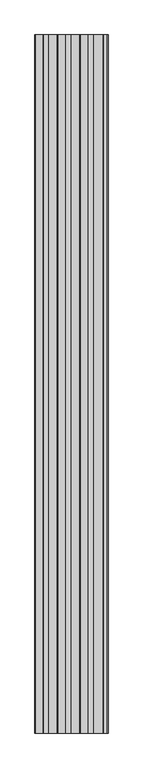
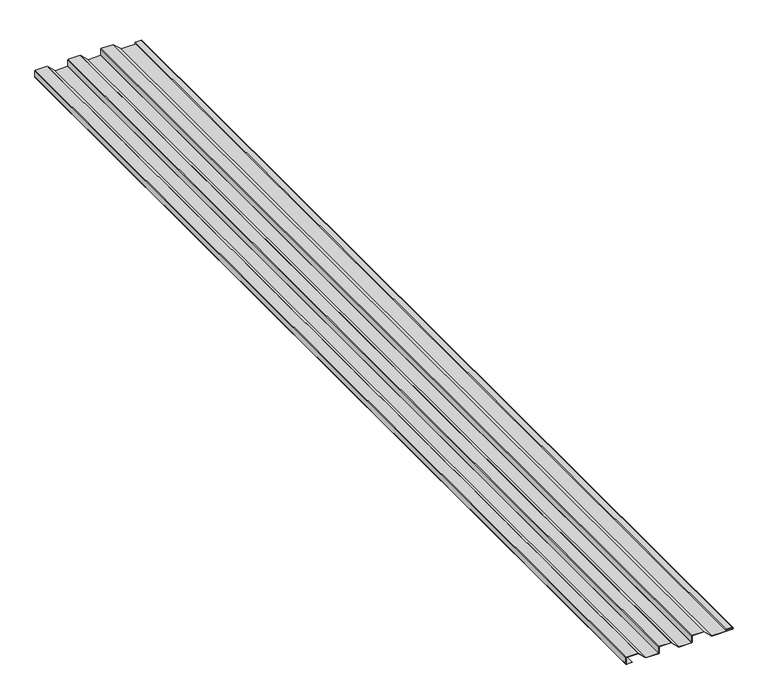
"""IFC4 building model written with IfcOpenShell, lengths in millimetres: proxy geometry, Perception-Collection_Panel_PC-10_AEP_Span : Perception Collection PC10-12c - 20ga."""

from ifc_helpers import new_model, si_unit, point, frame, frame_2d, origin, place, context, project, spatial, polyline, circle_curve, trimmed, segment, composite_curve, outline, extrude, source, transform, mapped, element, save


def generic_models_2ece9b0f(model_context):
    return source(origin(), model_context, "Body", "SweptSolid", [
        extrude(outline(composite_curve([segment(trimmed(circle_curve(frame_2d((20.9575359, -129.4492612)), 1.444969), [point((22.0143193, -128.4637947))], [point((22.4025049, -129.4492612))], False, "CARTESIAN"), True, "CONTINUOUS"), segment(polyline([(22.4025049, -129.4492612), (22.4025049, -164.2965588)]), True, "CONTINUOUS"), segment(trimmed(circle_curve(frame_2d((20.9575359, -164.2965588)), 1.444969), [point((22.4025049, -164.2965588))], [point((20.9575359, -165.7415279))], False, "CARTESIAN"), True, "CONTINUOUS"), segment(polyline([(20.9575359, -165.7415279), (1.6224739, -165.7415279)]), True, "CONTINUOUS"), segment(trimmed(circle_curve(frame_2d((1.6224739, -164.2965588)), 1.444969), [point((1.6224739, -165.7415279))], [point((0.1775049, -164.2965588))], False, "CARTESIAN"), True, "CONTINUOUS"), segment(polyline([(0.1775049, -164.2965588), (0.1775049, -147.3108003), (1.0766649, -147.3108003), (1.0766649, -164.2903676)]), True, "CONTINUOUS"), segment(trimmed(circle_curve(frame_2d((1.6286652, -164.2903676)), 0.5520003), [point((1.0766649, -164.2903676))], [point((1.6286652, -164.8423679))], True, "CARTESIAN"), True, "CONTINUOUS"), segment(polyline([(1.6286652, -164.8423679), (20.9513446, -164.8423679)]), True, "CONTINUOUS"), segment(trimmed(circle_curve(frame_2d((20.9513446, -164.2903676)), 0.5520003), [point((20.9513446, -164.8423679))], [point((21.5033449, -164.2903676))], True, "CARTESIAN"), True, "CONTINUOUS"), segment(polyline([(21.5033449, -164.2903676), (21.5033449, -129.2342613), (0.0004147, -106.1751918), (0.0004147, -68.1599502)]), True, "CONTINUOUS"), segment(trimmed(circle_curve(frame_2d((1.615868, -68.1599502)), 1.6154533), [point((0.0004147, -68.1599502))], [point((1.615868, -66.5444969))], False, "CARTESIAN"), True, "CONTINUOUS"), segment(polyline([(1.615868, -66.5444969), (20.9509299, -66.5444969)]), True, "CONTINUOUS"), segment(trimmed(circle_curve(frame_2d((20.9509299, -65.9924966)), 0.5520003), [point((20.9509299, -66.5444969))], [point((21.5029302, -65.9924966))], True, "CARTESIAN"), True, "CONTINUOUS"), segment(polyline([(21.5029302, -65.9924966), (21.5029302, -30.9363903), (0.0, -7.8773208), (0.0, 30.1379208)]), True, "CONTINUOUS"), segment(trimmed(circle_curve(frame_2d((1.6154533, 30.1379208)), 1.6154533), [point((0.0, 30.1379208))], [point((1.6154533, 31.7533741))], False, "CARTESIAN"), True, "CONTINUOUS"), segment(polyline([(1.6154533, 31.7533741), (20.9505152, 31.7533741)]), True, "CONTINUOUS"), segment(trimmed(circle_curve(frame_2d((20.9505152, 32.3053744)), 0.5520003), [point((20.9505152, 31.7533741))], [point((21.5025155, 32.3053744))], True, "CARTESIAN"), True, "CONTINUOUS"), segment(polyline([(21.5025155, 32.3053744), (21.5025155, 67.3614807), (-0.0004147, 90.4205502), (-0.0004147, 150.515338)]), True, "CONTINUOUS"), segment(trimmed(circle_curve(frame_2d((3.1595812, 150.515338)), 3.1599959), [point((-0.0004147, 150.515338))], [point((6.3195771, 150.515338))], False, "CARTESIAN"), True, "CONTINUOUS"), segment(polyline([(6.3195771, 150.515338), (6.3195771, 133.0798697)]), True, "CONTINUOUS"), segment(trimmed(circle_curve(frame_2d((5.0591749, 133.0798697)), 1.2604023), [point((6.3195771, 133.0798697))], [point((3.7987726, 133.0798697))], False, "CARTESIAN"), True, "CONTINUOUS"), segment(polyline([(3.7987726, 133.0798697), (3.7987726, 144.2832947), (4.6979326, 144.2832947), (4.6979326, 133.0798697)]), True, "CONTINUOUS"), segment(trimmed(circle_curve(frame_2d((5.0591749, 133.0798697)), 0.3612423), [point((4.6979326, 133.0798697))], [point((5.4204171, 133.0798697))], True, "CARTESIAN"), True, "CONTINUOUS"), segment(polyline([(5.4204171, 133.0798697), (5.4204171, 150.515338)]), True, "CONTINUOUS"), segment(trimmed(circle_curve(frame_2d((3.1595812, 150.515338)), 2.2608359), [point((5.4204171, 150.515338))], [point((0.8987453, 150.515338))], True, "CARTESIAN"), True, "CONTINUOUS"), segment(polyline([(0.8987453, 150.515338), (0.8987453, 90.7747387), (22.0134899, 68.1319473)]), True, "CONTINUOUS"), segment(trimmed(circle_curve(frame_2d((20.9567064, 67.1464808)), 1.444969), [point((22.0134899, 68.1319473))], [point((22.4016755, 67.1464808))], False, "CARTESIAN"), True, "CONTINUOUS"), segment(polyline([(22.4016755, 67.1464808), (22.4016755, 32.2991831)]), True, "CONTINUOUS"), segment(trimmed(circle_curve(frame_2d((20.9567064, 32.2991831)), 1.444969), [point((22.4016755, 32.2991831))], [point((20.9567064, 30.8542141))], False, "CARTESIAN"), True, "CONTINUOUS"), segment(polyline([(20.9567064, 30.8542141), (1.6216445, 30.8542141)]), True, "CONTINUOUS"), segment(trimmed(circle_curve(frame_2d((1.6216445, 30.1317296)), 0.7224845), [point((1.6216445, 30.8542141))], [point((0.89916, 30.1317296))], True, "CARTESIAN"), True, "CONTINUOUS"), segment(polyline([(0.89916, 30.1317296), (0.89916, -7.5231323), (22.0139046, -30.1659237)]), True, "CONTINUOUS"), segment(trimmed(circle_curve(frame_2d((20.9571211, -31.1513902)), 1.444969), [point((22.0139046, -30.1659237))], [point((22.4020902, -31.1513902))], False, "CARTESIAN"), True, "CONTINUOUS"), segment(polyline([(22.4020902, -31.1513902), (22.4020902, -65.9986878)]), True, "CONTINUOUS"), segment(trimmed(circle_curve(frame_2d((20.9571211, -65.9986878)), 1.444969), [point((22.4020902, -65.9986878))], [point((20.9571211, -67.4436569))], False, "CARTESIAN"), True, "CONTINUOUS"), segment(polyline([(20.9571211, -67.4436569), (1.6220592, -67.4436569)]), True, "CONTINUOUS"), segment(trimmed(circle_curve(frame_2d((1.6220592, -68.1661414)), 0.7224845), [point((1.6220592, -67.4436569))], [point((0.8995747, -68.1661414))], True, "CARTESIAN"), True, "CONTINUOUS"), segment(polyline([(0.8995747, -68.1661414), (0.8995747, -105.8210033), (22.0143193, -128.4637947)]), True, "CONTINUOUS")], self_intersect=False)), frame((0.0, -3048.0, 0.0), z_axis=(0.0, 1.0, 0.0), x_axis=(0.0, 0.0, 1.0)), (0.0, 0.0, 1.0), 3048.0),
    ])


if __name__ == "__main__":
    model = new_model("IFC4")
    model_context = context("Model", 3, world=origin())
    ifc_project = project(units=[si_unit("LENGTHUNIT", "METRE", prefix="MILLI")], contexts=[model_context])
    site = spatial("IfcSite", under=ifc_project)
    building = spatial("IfcBuilding", under=site)
    placement = place(None, origin())
    generic_models_shape = generic_models_2ece9b0f(model_context)
    element("IfcBuildingElementProxy", 1, Name="Perception-Collection_Panel_PC-10_AEP_Span : Perception Collection PC10-12c - 20ga", ObjectType="Perception-Collection_Panel_PC-10_AEP_Span : Perception Collection PC10-12c - 20ga", at=placement, inside=building, context=model_context, shape_type="MappedRepresentation", body=[
        mapped(generic_models_shape, transform((0.0, 0.0, 0.0), x_axis=(1.0, 0.0, 0.0), y_axis=(0.0, 1.0, 0.0), z_axis=(0.0, 0.0, 1.0))),
    ])
    save(model, "model.ifc")
